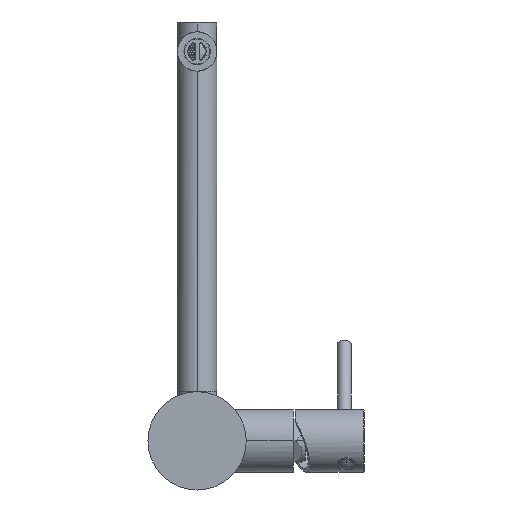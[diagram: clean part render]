
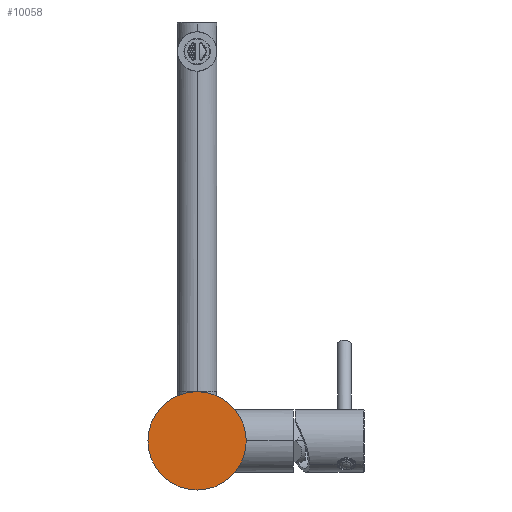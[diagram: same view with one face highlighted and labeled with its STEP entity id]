
A CAD part, front view. The second image highlights one B-rep face of the part: STEP entity #10058.
In plain terms, the highlighted planar face has unit normal (0, -1, 0).
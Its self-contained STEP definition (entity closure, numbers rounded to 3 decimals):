
#1175=CARTESIAN_POINT('',(0.,-4.5,0.));
#1176=DIRECTION('',(0.,-1.,0.));
#1177=DIRECTION('',(-1.,0.,0.));
#1178=AXIS2_PLACEMENT_3D('',#1175,#1176,#1177);
#1180=CARTESIAN_POINT('',(0.,-4.5,0.));
#1181=DIRECTION('',(0.,1.,0.));
#1182=DIRECTION('',(-1.,0.,0.));
#1183=AXIS2_PLACEMENT_3D('',#1180,#1181,#1182);
#7952=CARTESIAN_POINT('',(-25.,-4.5,0.));
#7953=CARTESIAN_POINT('',(25.,-4.5,0.));
#7954=VERTEX_POINT('',#7952);
#7955=VERTEX_POINT('',#7953);
#10049=CARTESIAN_POINT('',(0.,-4.5,0.));
#10050=DIRECTION('',(0.,1.,0.));
#10051=DIRECTION('',(1.,0.,0.));
#10052=AXIS2_PLACEMENT_3D('',#10049,#10050,#10051);
#10053=PLANE('',#10052);
#10054=ORIENTED_EDGE('',*,*,#10016,.F.);
#10055=ORIENTED_EDGE('',*,*,#10031,.T.);
#10056=EDGE_LOOP('',(#10054,#10055));
#10057=FACE_OUTER_BOUND('',#10056,.F.);
#10058=ADVANCED_FACE('',(#10057),#10053,.F.);
#1179=CIRCLE('',#1178,25.);
#1184=CIRCLE('',#1183,25.);
#10016=EDGE_CURVE('',#7954,#7955,#1179,.T.);
#10031=EDGE_CURVE('',#7954,#7955,#1184,.T.);
